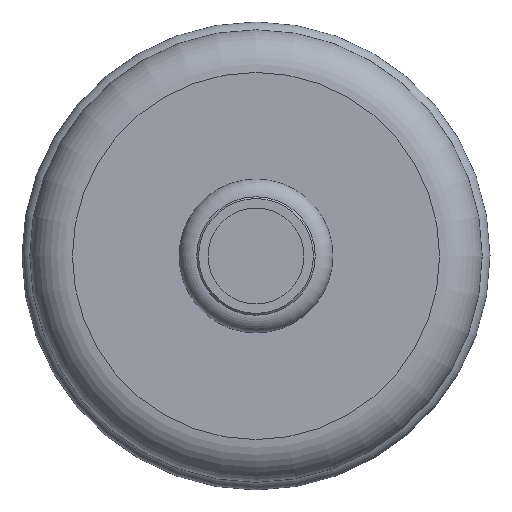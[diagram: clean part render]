
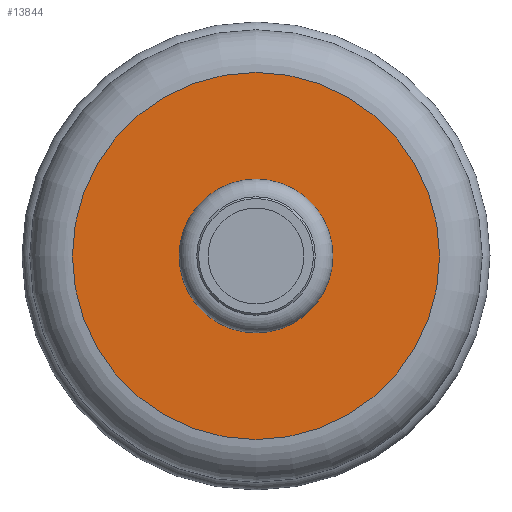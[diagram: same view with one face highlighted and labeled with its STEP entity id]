
A CAD part, front view. The second image highlights one B-rep face of the part: STEP entity #13844.
In plain terms, the highlighted planar face has unit normal (0, -1, 0).
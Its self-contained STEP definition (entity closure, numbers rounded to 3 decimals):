
#3809=FACE_BOUND('',#5338,.T.);
#4540=FACE_OUTER_BOUND('',#5337,.T.);
#5337=EDGE_LOOP('',(#12609));
#5338=EDGE_LOOP('',(#12610));
#5345=CIRCLE('',#14359,13.);
#5358=CIRCLE('',#14388,31.);
#6669=VERTEX_POINT('',#24203);
#6682=VERTEX_POINT('',#24245);
#8645=EDGE_CURVE('',#6669,#6669,#5345,.T.);
#8658=EDGE_CURVE('',#6682,#6682,#5358,.T.);
#12609=ORIENTED_EDGE('',*,*,#8658,.T.);
#12610=ORIENTED_EDGE('',*,*,#8645,.T.);
#13118=PLANE('',#14389);
#13844=ADVANCED_FACE('',(#4540,#3809),#13118,.T.);
#14359=AXIS2_PLACEMENT_3D('',#24204,#16968,#16969);
#14388=AXIS2_PLACEMENT_3D('',#24246,#17026,#17027);
#14389=AXIS2_PLACEMENT_3D('',#24247,#17028,#17029);
#16968=DIRECTION('center_axis',(0.,1.,0.));
#16969=DIRECTION('ref_axis',(0.,0.,1.));
#17026=DIRECTION('center_axis',(0.,-1.,0.));
#17027=DIRECTION('ref_axis',(-1.,0.,0.));
#17028=DIRECTION('center_axis',(0.,-1.,0.));
#17029=DIRECTION('ref_axis',(0.,0.,-1.));
#24203=CARTESIAN_POINT('',(0.,-13.803,13.));
#24204=CARTESIAN_POINT('Origin',(0.,-13.803,
0.));
#24245=CARTESIAN_POINT('',(-31.,-13.803,0.));
#24246=CARTESIAN_POINT('Origin',(0.,-13.803,
0.));
#24247=CARTESIAN_POINT('Origin',(-20.025,-13.803,0.));
